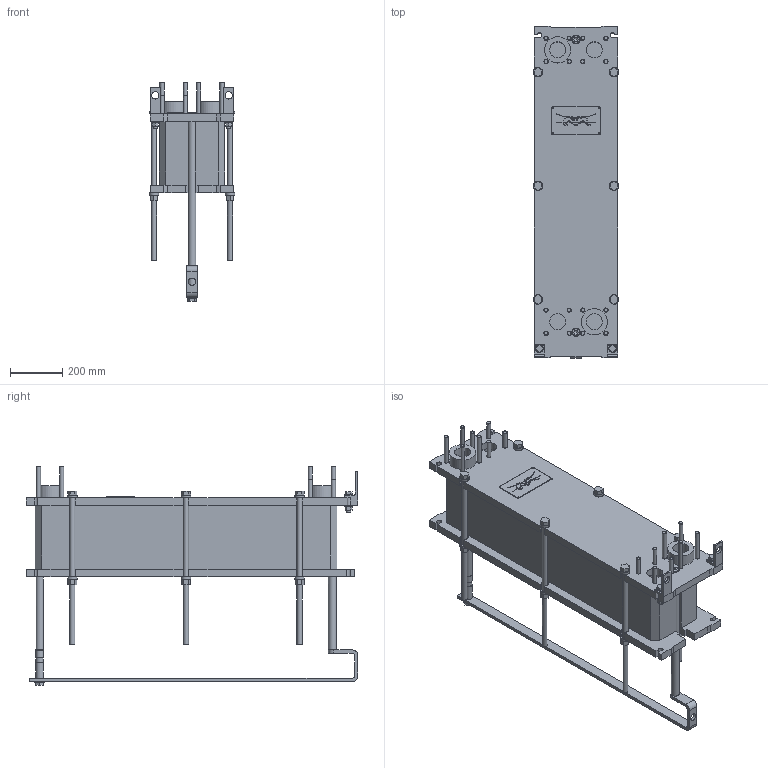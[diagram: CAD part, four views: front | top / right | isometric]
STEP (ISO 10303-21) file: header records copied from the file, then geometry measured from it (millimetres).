
FILE_DESCRIPTION(/* description */ (''),/* implementation_level */ '2;1');
FILE_NAME(/* name */ 'C:\temp\TL6_FG_LC550_08_Rev0.stp',/* time_stamp */ '2016-02-02T13:36:41+08:00',/* author */ ('SELUJJNCX'),/* organization */ (''),/* preprocessor_version */ 'ST-DEVELOPER v15.6',/* originating_system */ 'Autodesk Inventor 2015',/* authorisation */ '270013742 mm^3');
FILE_SCHEMA (('AUTOMOTIVE_DESIGN { 1 0 10303 214 3 1 1 }'));
Length unit declared in the file: millimetre
Products named in the file (1): 3dmodel_TL6.2
Bounding box: 326 x 1264 x 834.5 mm (x, y, z)
Volume: 93033652.6 mm3; surface area: 2776906.9 mm2
Topology: 1 solids, 3 shells, 857 faces, 2274 edges, 1495 vertices
Faces by surface type: plane 589, cylinder 236, cone 27, torus 5
Full cylindrical faces by diameter (mm): 4.049 x4, 16 x20, 18 x2, 20 x12, 22 x2, 28 x4, 30 x10, 32 x2, 36 x12, 37 x1, 61 x10, 100 x2
Entity records: 25804 total; most frequent: CARTESIAN_POINT 4474, DIRECTION 4355, ORIENTED_EDGE 4258, EDGE_CURVE 2129, LINE 1595, VECTOR 1595, VERTEX_POINT 1463, AXIS2_PLACEMENT_3D 1380
